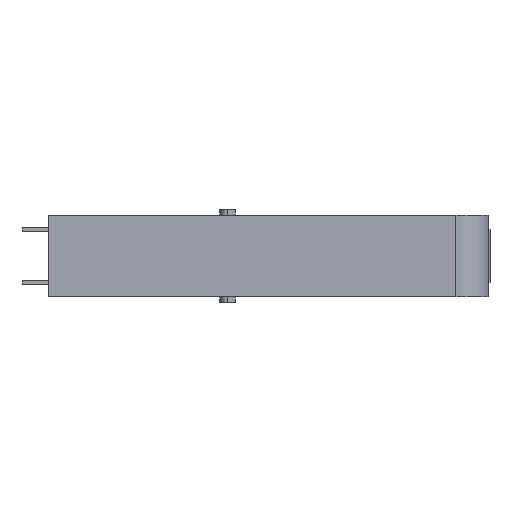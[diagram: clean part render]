
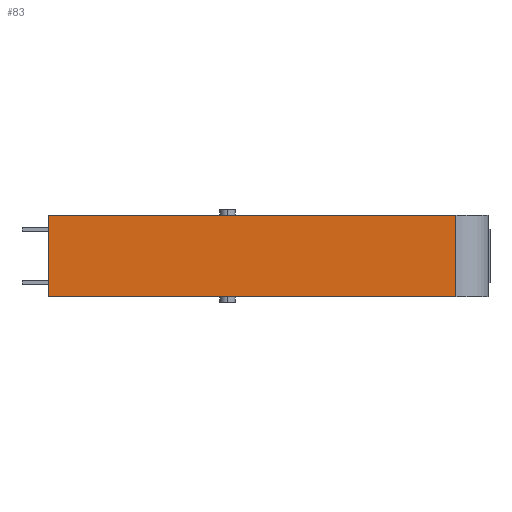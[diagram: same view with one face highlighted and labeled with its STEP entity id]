
A CAD part, left-side view. The second image highlights one B-rep face of the part: STEP entity #83.
In plain terms, the highlighted planar face has unit normal (-1, 0, 0).
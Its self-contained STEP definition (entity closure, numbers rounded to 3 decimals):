
#83 = ADVANCED_FACE ( 'NONE', ( #1486 ), #4016, .F. ) ;
#549 = VERTEX_POINT ( 'NONE', #2419 ) ;
#621 = EDGE_CURVE ( 'NONE', #966, #549, #2666, .T. ) ;
#634 = EDGE_CURVE ( 'NONE', #972, #973, #2682, .T. ) ;
#646 = EDGE_CURVE ( 'NONE', #973, #549, #2695, .T. ) ;
#647 = EDGE_CURVE ( 'NONE', #966, #972, #2697, .T. ) ;
#838 = AXIS2_PLACEMENT_3D ( 'NONE', #4027, #4014, #4013 ) ;
#966 = VERTEX_POINT ( 'NONE', #3710 ) ;
#972 = VERTEX_POINT ( 'NONE', #3716 ) ;
#973 = VERTEX_POINT ( 'NONE', #3717 ) ;
#1143 = EDGE_LOOP ( 'NONE', ( #1383, #1377, #1388, #1378 ) ) ;
#1377 = ORIENTED_EDGE ( 'NONE', *, *, #646, .T. ) ;
#1378 = ORIENTED_EDGE ( 'NONE', *, *, #647, .T. ) ;
#1383 = ORIENTED_EDGE ( 'NONE', *, *, #634, .T. ) ;
#1388 = ORIENTED_EDGE ( 'NONE', *, *, #621, .F. ) ;
#1486 = FACE_OUTER_BOUND ( 'NONE', #1143, .T. ) ;
#2419 = CARTESIAN_POINT ( 'NONE',  ( 0., 10., 12.5 ) ) ;
#2666 = LINE ( 'NONE', #2875, #2669 ) ;
#2669 = VECTOR ( 'NONE', #2876, 1000. ) ;
#2682 = LINE ( 'NONE', #2909, #2684 ) ;
#2684 = VECTOR ( 'NONE', #2871, 1000. ) ;
#2695 = LINE ( 'NONE', #2944, #2698 ) ;
#2697 = LINE ( 'NONE', #2948, #2700 ) ;
#2698 = VECTOR ( 'NONE', #2916, 1000. ) ;
#2700 = VECTOR ( 'NONE', #2949, 1000. ) ;
#2871 = DIRECTION ( 'NONE',  ( 0., -1., 0. ) ) ;
#2875 = CARTESIAN_POINT ( 'NONE',  ( 0., 0., 12.5 ) ) ;
#2876 = DIRECTION ( 'NONE',  ( 0., -1., 0. ) ) ;
#2909 = CARTESIAN_POINT ( 'NONE',  ( 0., 0., -12.5 ) ) ;
#2916 = DIRECTION ( 'NONE',  ( 0., 0., 1. ) ) ;
#2944 = CARTESIAN_POINT ( 'NONE',  ( 0., 10., 12.5 ) ) ;
#2948 = CARTESIAN_POINT ( 'NONE',  ( 0., 135., 12.5 ) ) ;
#2949 = DIRECTION ( 'NONE',  ( 0., 0., -1. ) ) ;
#3710 = CARTESIAN_POINT ( 'NONE',  ( 0., 135., 12.5 ) ) ;
#3716 = CARTESIAN_POINT ( 'NONE',  ( 0., 135., -12.5 ) ) ;
#3717 = CARTESIAN_POINT ( 'NONE',  ( 0., 10., -12.5 ) ) ;
#4013 = DIRECTION ( 'NONE',  ( 0., 0., -1. ) ) ;
#4014 = DIRECTION ( 'NONE',  ( 1., 0., 0. ) ) ;
#4016 = PLANE ( 'NONE',  #838 ) ;
#4027 = CARTESIAN_POINT ( 'NONE',  ( 0., 0., 12.5 ) ) ;
